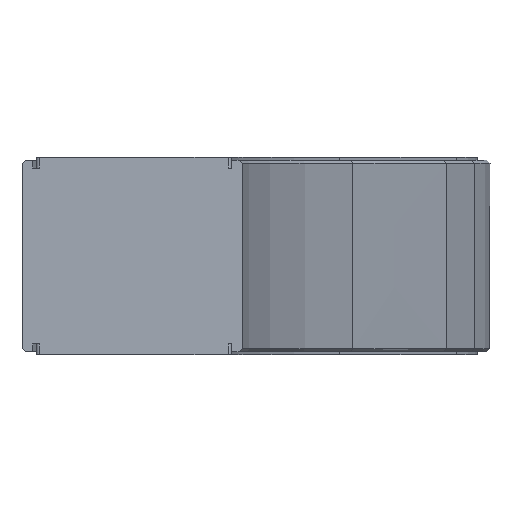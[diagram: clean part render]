
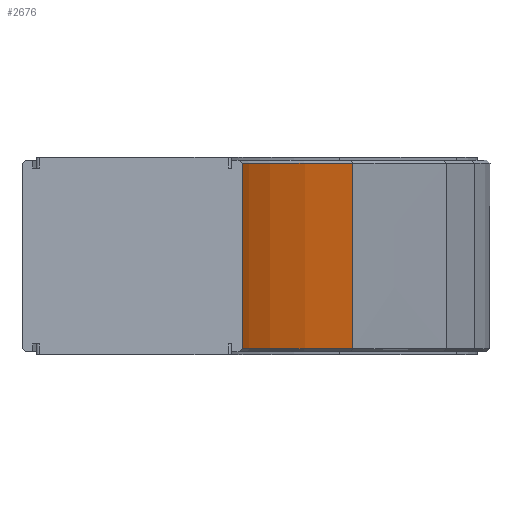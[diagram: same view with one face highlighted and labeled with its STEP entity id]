
A CAD part, left-side view. The second image highlights one B-rep face of the part: STEP entity #2676.
In plain terms, the highlighted cylindrical face has radius 274.601 mm (diameter 549.202 mm), a partial arc.
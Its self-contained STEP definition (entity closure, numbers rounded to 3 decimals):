
#188 = ORIENTED_EDGE ( 'NONE', *, *, #4930, .F. ) ;
#330 = DIRECTION ( 'NONE',  ( 0., 0., 1. ) ) ;
#463 = CARTESIAN_POINT ( 'NONE',  ( -105.808, -30.324, -30.5 ) ) ;
#744 = DIRECTION ( 'NONE',  ( 0., 0., 1. ) ) ;
#772 = VERTEX_POINT ( 'NONE', #1353 ) ;
#1046 = CIRCLE ( 'NONE', #2634, 274.601 ) ;
#1353 = CARTESIAN_POINT ( 'NONE',  ( -105.808, -30.324, 30.5 ) ) ;
#1422 = DIRECTION ( 'NONE',  ( 1., 0., 0. ) ) ;
#1523 = CARTESIAN_POINT ( 'NONE',  ( -242.48, -268.497, 0. ) ) ;
#1615 = VECTOR ( 'NONE', #6583, 1000. ) ;
#1627 = ORIENTED_EDGE ( 'NONE', *, *, #7655, .T. ) ;
#1770 = CARTESIAN_POINT ( 'NONE',  ( -242.48, -268.497, -30.5 ) ) ;
#1927 = CARTESIAN_POINT ( 'NONE',  ( -242.48, 6.104, 0. ) ) ;
#2634 = AXIS2_PLACEMENT_3D ( 'NONE', #1770, #3020, #6779 ) ;
#2676 = ADVANCED_FACE ( 'NONE', ( #3688 ), #4856, .F. ) ;
#3020 = DIRECTION ( 'NONE',  ( 0., 0., 1. ) ) ;
#3122 = ORIENTED_EDGE ( 'NONE', *, *, #4258, .T. ) ;
#3272 = LINE ( 'NONE', #3484, #1615 ) ;
#3445 = LINE ( 'NONE', #1927, #5694 ) ;
#3484 = CARTESIAN_POINT ( 'NONE',  ( -105.808, -30.324, 0. ) ) ;
#3688 = FACE_OUTER_BOUND ( 'NONE', #7070, .T. ) ;
#3854 = CARTESIAN_POINT ( 'NONE',  ( -242.48, -268.497, 30.5 ) ) ;
#3909 = DIRECTION ( 'NONE',  ( 0., 0., 1. ) ) ;
#4258 = EDGE_CURVE ( 'NONE', #4426, #772, #3272, .T. ) ;
#4426 = VERTEX_POINT ( 'NONE', #463 ) ;
#4856 = CYLINDRICAL_SURFACE ( 'NONE', #7031, 274.601 ) ;
#4930 = EDGE_CURVE ( 'NONE', #4426, #8016, #1046, .T. ) ;
#5110 = CIRCLE ( 'NONE', #5378, 274.601 ) ;
#5378 = AXIS2_PLACEMENT_3D ( 'NONE', #3854, #3909, #1422 ) ;
#5694 = VECTOR ( 'NONE', #744, 1000. ) ;
#6575 = VERTEX_POINT ( 'NONE', #8113 ) ;
#6583 = DIRECTION ( 'NONE',  ( 0., 0., 1. ) ) ;
#6679 = EDGE_CURVE ( 'NONE', #8016, #6575, #3445, .T. ) ;
#6779 = DIRECTION ( 'NONE',  ( 1., 0., 0. ) ) ;
#6842 = CARTESIAN_POINT ( 'NONE',  ( -242.48, 6.104, -30.5 ) ) ;
#7031 = AXIS2_PLACEMENT_3D ( 'NONE', #1523, #330, #7298 ) ;
#7070 = EDGE_LOOP ( 'NONE', ( #3122, #1627, #7592, #188 ) ) ;
#7298 = DIRECTION ( 'NONE',  ( 1., 0., 0. ) ) ;
#7592 = ORIENTED_EDGE ( 'NONE', *, *, #6679, .F. ) ;
#7655 = EDGE_CURVE ( 'NONE', #772, #6575, #5110, .T. ) ;
#8016 = VERTEX_POINT ( 'NONE', #6842 ) ;
#8113 = CARTESIAN_POINT ( 'NONE',  ( -242.48, 6.104, 30.5 ) ) ;
